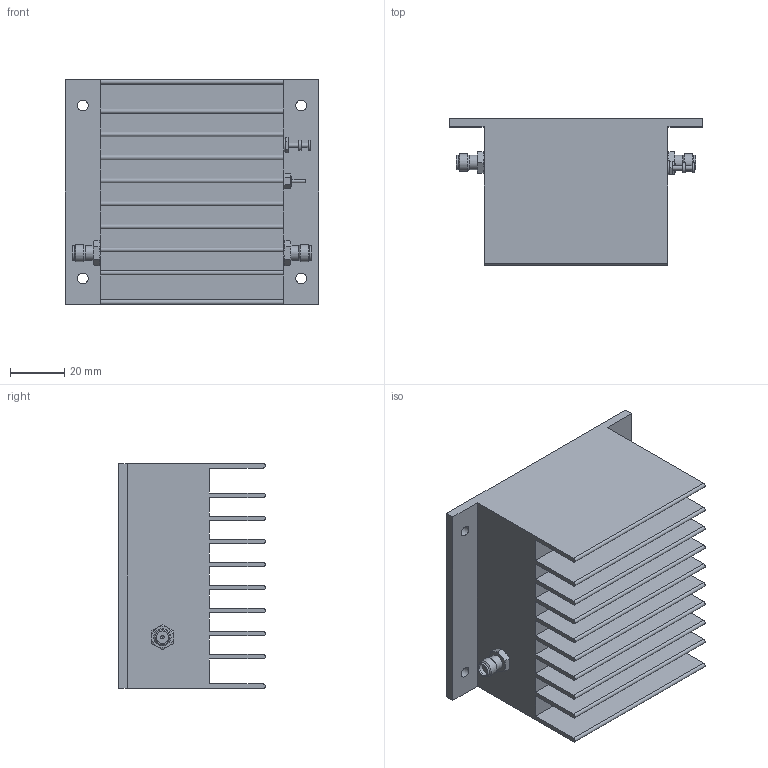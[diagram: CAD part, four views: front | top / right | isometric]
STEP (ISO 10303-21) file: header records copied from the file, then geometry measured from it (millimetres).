
FILE_DESCRIPTION (( 'STEP AP214' ), '1' );
FILE_NAME ('NN92(F).STEP', '2019-12-02T18:31:26', ( 'mcl' ), ( 'Microsoft' ), 'SwSTEP 2.0', 'SolidWorks 2016', '' );
FILE_SCHEMA (( 'AUTOMOTIVE_DESIGN' ));
Length unit declared in the file: inch
Products named in the file (1): NN92(F)
Bounding box: 92.96 x 53.98 x 82.55 mm (x, y, z)
Volume: 215296.2 mm3; surface area: 56382.9 mm2
Topology: 1 solids, 23 shells, 392 faces, 928 edges, 613 vertices
Faces by surface type: plane 200, cone 98, cylinder 80, torus 7, sphere 7
Full cylindrical faces by diameter (mm): 1.016 x1, 1.27 x4, 1.651 x2, 2.261 x10, 2.845 x8, 2.946 x1, 3.658 x7, 3.683 x2, 3.962 x4, 4.597 x2, 5.08 x1, 5.385 x13, 5.41 x4, 6.35 x9
Entity records: 16160 total; most frequent: CARTESIAN_POINT 2537, DIRECTION 1796, ORIENTED_EDGE 1608, EDGE_CURVE 804, AXIS2_PLACEMENT_3D 747, VERTEX_POINT 580, EDGE_LOOP 546, FACE_OUTER_BOUND 474
